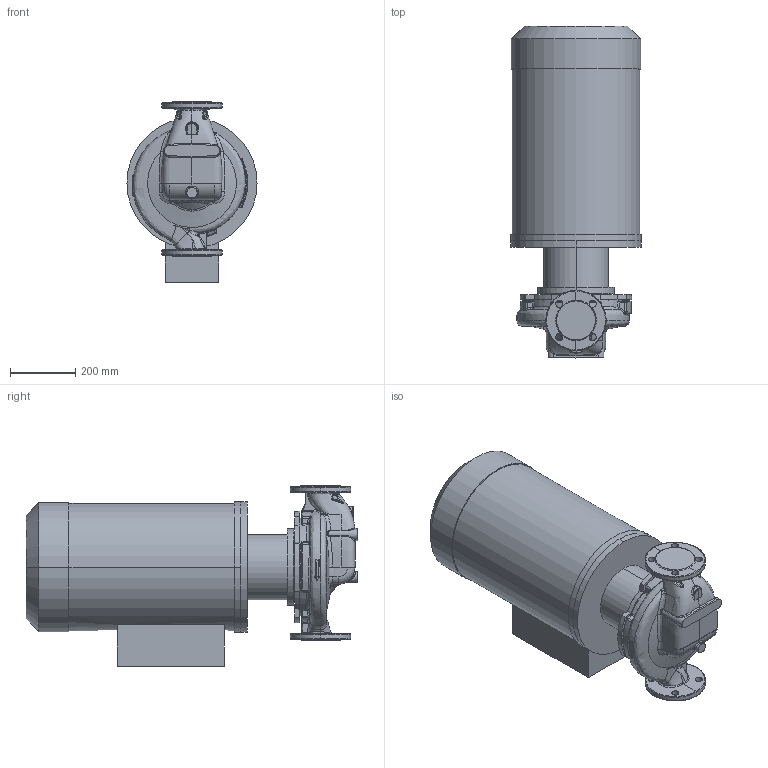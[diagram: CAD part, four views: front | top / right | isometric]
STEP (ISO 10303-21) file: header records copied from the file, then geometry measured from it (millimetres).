
FILE_DESCRIPTION (( 'STEP AP214' ), '1' );
FILE_NAME ('KRL 65-250-2-37.STEP', '2026-03-23T11:34:25', ( '' ), ( '' ), 'SwSTEP 2.0', 'SolidWorks 2016', '' );
FILE_SCHEMA (( 'AUTOMOTIVE_DESIGN' ));
Length unit declared in the file: millimetre
Products named in the file (1): KRL 65-250-2-37
Bounding box: 400 x 1020.3 x 555 mm (x, y, z)
Volume: 107007541.8 mm3; surface area: 2271418.5 mm2
Topology: 4 solids, 4 shells, 621 faces, 1547 edges, 931 vertices
Faces by surface type: bspline 283, cylinder 133, plane 103, cone 43, torus 31, sphere 28
Entity records: 64465 total; most frequent: CARTESIAN_POINT 45456, ORIENTED_EDGE 3058, DIRECTION 1859, EDGE_CURVE 1529, VERTEX_POINT 931, AXIS2_PLACEMENT_3D 797, EDGE_LOOP 652, B_SPLINE_CURVE_WITH_KNOTS 650
